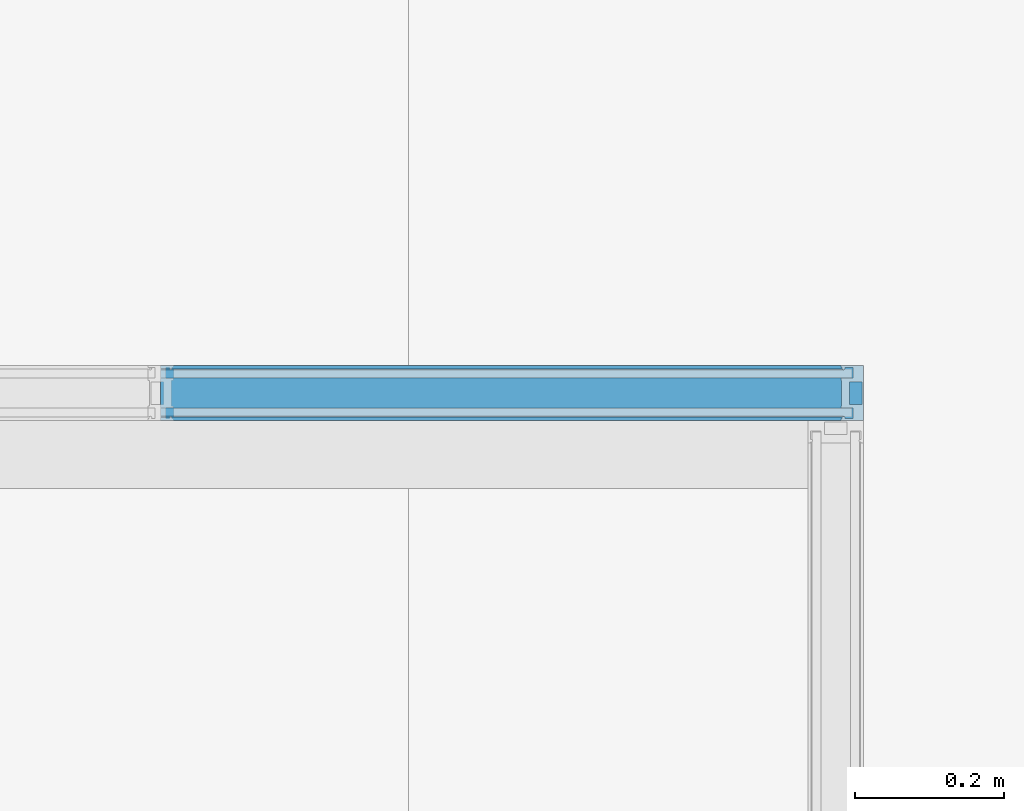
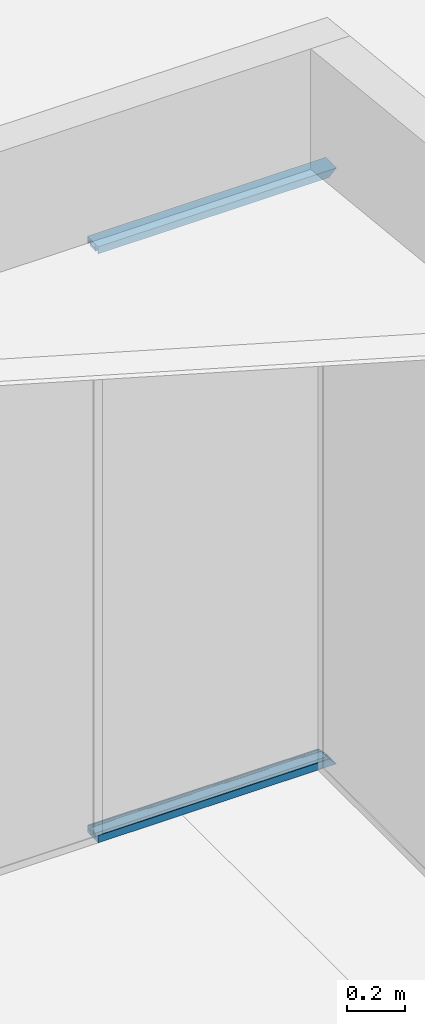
# One storey, part 21 of 43: 2 members, 1 element without a shape of its own.
"""IFC2X3 building model written with IfcOpenShell, lengths in millimetres."""

from ifc_helpers import new_model, entity, si_unit, converted_unit, derived_unit, money_unit, direction, frame, origin_with_axes, place, context, subcontext, project, spatial, faceted_brep, material, material_list, type_object, element, aggregate, save


model = new_model("IFC2X3")

# Units and contexts
model_context = context("Model", 3, precision=0.01, world=origin_with_axes(), true_north=direction((0.0, 1.0)))
body_context = subcontext(model_context, "Body", "Model", "MODEL_VIEW")
ifc_project = project(units=[si_unit("LENGTHUNIT", "METRE", prefix="MILLI"), si_unit("AREAUNIT", "SQUARE_METRE"), si_unit("VOLUMEUNIT", "CUBIC_METRE"), converted_unit("PLANEANGLEUNIT", "DEGREE", entity("IfcPlaneAngleMeasure", 0.0174532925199), si_unit("PLANEANGLEUNIT", "RADIAN"), dimensions=[0, 0, 0, 0, 0, 0, 0]), si_unit("SOLIDANGLEUNIT", "STERADIAN"), money_unit("EUR"), converted_unit("TIMEUNIT", "Year", entity("IfcTimeMeasure", 31556926.0), si_unit("TIMEUNIT", "SECOND"), dimensions=[0, 0, 1, 0, 0, 0, 0]), si_unit("MASSUNIT", "GRAM", prefix="KILO"), si_unit("THERMODYNAMICTEMPERATUREUNIT", "DEGREE_CELSIUS"), si_unit("LUMINOUSINTENSITYUNIT", "LUMEN"), si_unit("ENERGYUNIT", "JOULE", prefix="MEGA"), derived_unit("THERMALCONDUCTANCEUNIT", [(si_unit("POWERUNIT", "WATT"), 1), (si_unit("LENGTHUNIT", "METRE"), -1), (si_unit("THERMODYNAMICTEMPERATUREUNIT", "KELVIN"), -1)]), derived_unit("SPECIFICHEATCAPACITYUNIT", [(si_unit("ENERGYUNIT", "JOULE"), 1), (si_unit("MASSUNIT", "GRAM", prefix="KILO"), -1), (si_unit("THERMODYNAMICTEMPERATUREUNIT", "KELVIN"), -1)]), derived_unit("MASSDENSITYUNIT", [(si_unit("MASSUNIT", "GRAM", prefix="KILO"), 1), (si_unit("VOLUMEUNIT", "CUBIC_METRE"), -1)])], contexts=[model_context])

# Site, building, storey
site_placement = place(None, origin_with_axes())
site = spatial("IfcSite", under=ifc_project, at=site_placement, Name="L.Koidula tn 11b", CompositionType="ELEMENT")
building_placement = place(site_placement, origin_with_axes())
building = spatial("IfcBuilding", under=site, at=building_placement, Name="Rakvere Riigigümnaasium", CompositionType="ELEMENT")
storey_placement = place(building_placement, frame((0.0, 0.0, 6665.0), z_axis=(0.0, 0.0, 1.0), x_axis=(1.0, 0.0, 0.0)))
storey = spatial("IfcBuildingStorey", under=building, at=storey_placement, Name="3.korrus +6,66", CompositionType="ELEMENT", Elevation=6665.0)

# Curtain wall, members
curtain_wall_type = type_object("IfcCurtainWallType", Name="Curtain Wall Type", PredefinedType="NOTDEFINED")
curtain_wall_placement = place(storey_placement, frame((45254.9999955, 28178.4554945, 0.0), z_axis=(0.0, 0.0, 1.0), x_axis=(1.0, 0.0, 0.0)))
curtain_wall = element("IfcCurtainWall", 1, at=curtain_wall_placement, inside=storey, type_object=curtain_wall_type, Name="SKLF-26")
ifc_material_1 = material(Name="Klaasvill")
ifc_material_2 = material(Name="Teras RAL7012")
ifc_material_list = material_list([ifc_material_1, ifc_material_2])
member_type = type_object("IfcMemberType", Name="Boundary Frame 30 x 42", PredefinedType="MULLION")
member_1_placement = place(curtain_wall_placement, frame((2355.0, 0.0, 0.0), z_axis=(-1.0, 0.0, 0.0), x_axis=(0.0, 0.0, 1.0)))
member_1 = element("IfcMember", 2, at=member_1_placement, type_object=member_type, material=ifc_material_list, Name="SKLF-11-raam", ObjectType="MULLION", context=body_context, shape_type="Brep", body=[
    faceted_brep([(13.8499999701, 15.000000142, 13.8499999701), (13.8499999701, 15.000000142, 942.0), (7.49999990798, 15.000000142, 942.0), (7.49999990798, 15.000000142, 7.49999990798), (13.8499999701, 29.0161444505, 13.8499999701), (13.8499999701, 29.0161444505, 942.0), (7.49999990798, 29.0161444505, 942.0), (7.49999990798, 29.0161444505, 7.49999990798)], [[[0, 1, 2, 3]], [[4, 5, 1, 0]], [[2, 1, 5, 6]], [[3, 2, 6, 7]], [[3, 7, 4, 0]], [[7, 6, 5, 4]]]),
    faceted_brep([(25.004489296, 27.0307503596, 25.004489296), (25.004489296, 27.0307503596, 942.0), (24.987414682, 29.0161444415, 942.0), (24.987414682, 29.0161444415, 24.987414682), (25.742237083, 26.2930025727, 25.742237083), (25.742237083, 26.2930025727, 942.0), (26.7500193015, 26.0229681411, 942.0), (27.75780152, 26.2930025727, 942.0), (28.4955493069, 27.0307503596, 942.0), (28.7655837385, 28.0385325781, 942.0), (28.5126239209, 29.0161444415, 942.0), (28.5126239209, 29.0161444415, 28.5126239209), (28.7655837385, 28.0385325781, 28.7655837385), (28.4955493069, 27.0307503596, 28.4955493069), (27.75780152, 26.2930025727, 27.75780152), (26.7500193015, 26.0229681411, 26.7500193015)], [[[0, 1, 2, 3]], [[4, 5, 1, 0]], [[2, 1, 5, 6, 7, 8, 9, 10]], [[3, 2, 10, 11]], [[3, 11, 12, 13, 14, 15, 4, 0]], [[15, 6, 5, 4]], [[14, 7, 6, 15]], [[13, 8, 7, 14]], [[12, 9, 8, 13]], [[11, 10, 9, 12]]]),
    faceted_brep([(7.49999990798, -39.0161445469, 7.49999990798), (7.49999990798, -39.0161445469, 942.0), (7.49999990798, -24.9999997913, 942.0), (7.49999990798, -24.9999997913, 7.49999990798), (13.8499999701, -39.0161445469, 13.8499999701), (13.8499999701, -39.0161445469, 942.0), (13.8499999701, -24.9999997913, 942.0), (13.8499999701, -24.9999997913, 13.8499999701)], [[[0, 1, 2, 3]], [[4, 5, 1, 0]], [[2, 1, 5, 6]], [[3, 2, 6, 7]], [[3, 7, 4, 0]], [[7, 6, 5, 4]]]),
    faceted_brep([(24.987414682, -39.0161444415, 24.987414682), (24.987414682, -39.0161444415, 942.0), (25.004489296, -37.0307503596, 942.0), (25.004489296, -37.0307503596, 25.004489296), (28.5126239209, -39.0161444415, 28.5126239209), (28.5126239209, -39.0161444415, 942.0), (28.7655837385, -38.0385325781, 942.0), (28.4955493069, -37.0307503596, 942.0), (27.75780152, -36.2930025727, 942.0), (26.7500193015, -36.0229681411, 942.0), (25.742237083, -36.2930025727, 942.0), (25.742237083, -36.2930025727, 25.742237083), (26.7500193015, -36.0229681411, 26.7500193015), (27.75780152, -36.2930025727, 27.75780152), (28.4955493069, -37.0307503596, 28.4955493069), (28.7655837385, -38.0385325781, 28.7655837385)], [[[0, 1, 2, 3]], [[4, 5, 1, 0]], [[2, 1, 5, 6, 7, 8, 9, 10]], [[3, 2, 10, 11]], [[3, 11, 12, 13, 14, 15, 4, 0]], [[15, 6, 5, 4]], [[14, 7, 6, 15]], [[13, 8, 7, 14]], [[12, 9, 8, 13]], [[11, 10, 9, 12]]]),
    faceted_brep([(29.5999996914, -22.0000000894, 29.5999996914), (29.5999996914, -22.0000000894, 942.0), (0.0, -22.0000000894, 942.0), (0.0, -22.0000000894, 0.0), (29.5999996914, 12.0000000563, 29.5999996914), (29.5999996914, 12.0000000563, 942.0), (0.0, 12.0000000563, 942.0), (1.9999999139, 10.0000001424, 942.0), (18.7999996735, 10.0000001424, 942.0), (18.7999996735, -20.0000001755, 942.0), (1.9999999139, -20.0000001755, 942.0), (0.0, 12.0000000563, 0.0), (1.9999999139, 10.0000001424, 1.9999999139), (1.9999999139, -20.0000001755, 1.9999999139), (18.7999996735, -20.0000001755, 18.7999996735), (18.7999996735, 10.0000001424, 18.7999996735)], [[[0, 1, 2, 3]], [[4, 5, 1, 0]], [[2, 1, 5, 6], [7, 8, 9, 10]], [[3, 2, 6, 11]], [[3, 11, 4, 0], [12, 13, 14, 15]], [[11, 6, 5, 4]], [[15, 8, 7, 12]], [[14, 9, 8, 15]], [[13, 10, 9, 14]], [[12, 7, 10, 13]]]),
    faceted_brep([(29.5999996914, 12.0000000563, 29.5999996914), (29.5999996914, 12.0000000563, 942.0), (0.0, 12.0, 942.0), (0.0, 12.0, 0.0), (30.0000193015, 12.0, 30.0000193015), (30.0000193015, 12.0, 942.0), (30.0000193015, 15.0, 942.0), (13.8499999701, 15.000000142, 942.0), (7.49999999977, 15.0, 942.0), (7.49999999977, 29.0161444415, 942.0), (13.8499999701, 29.0161444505, 942.0), (24.987414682, 29.0161444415, 942.0), (28.5126239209, 29.0161444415, 942.0), (30.0000193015, 29.0161444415, 942.0), (30.0000193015, 32.0, 942.0), (0.0, 32.0, 942.0), (0.0, 32.0, 0.0), (30.0000193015, 32.0, 30.0000193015), (30.0000193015, 29.0161444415, 30.0000193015), (28.5126239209, 29.0161444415, 28.5126239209), (24.987414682, 29.0161444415, 24.987414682), (13.8499999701, 29.0161444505, 13.8499999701), (7.49999999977, 29.0161444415, 7.49999999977), (7.49999999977, 15.0, 7.49999999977), (13.8499999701, 15.000000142, 13.8499999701), (30.0000193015, 15.0, 30.0000193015)], [[[0, 1, 2, 3]], [[4, 5, 1, 0]], [[2, 1, 5, 6, 7, 8, 9, 10, 11, 12, 13, 14, 15]], [[3, 2, 15, 16]], [[3, 16, 17, 18, 19, 20, 21, 22, 23, 24, 25, 4, 0]], [[25, 6, 5, 4]], [[24, 7, 6, 25]], [[23, 8, 7, 24]], [[22, 9, 8, 23]], [[21, 10, 9, 22]], [[20, 11, 10, 21]], [[19, 12, 11, 20]], [[18, 13, 12, 19]], [[17, 14, 13, 18]], [[16, 15, 14, 17]]]),
    faceted_brep([(0.0, -42.0, 0.0), (0.0, -42.0, 942.0), (0.0, -22.0, 942.0), (0.0, -22.0, 0.0), (30.0000193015, -42.0, 30.0000193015), (30.0000193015, -42.0, 942.0), (30.0000193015, -39.0161444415, 942.0), (28.5126239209, -39.0161444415, 942.0), (24.987414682, -39.0161444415, 942.0), (13.8499999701, -39.0161445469, 942.0), (7.49999999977, -39.0161444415, 942.0), (7.49999999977, -25.0, 942.0), (13.8499999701, -24.9999997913, 942.0), (30.0000193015, -25.0, 942.0), (30.0000193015, -22.0, 942.0), (29.5999996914, -22.0000000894, 942.0), (29.5999996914, -22.0000000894, 29.5999996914), (30.0000193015, -22.0, 30.0000193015), (30.0000193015, -25.0, 30.0000193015), (13.8499999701, -24.9999997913, 13.8499999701), (7.49999999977, -25.0, 7.49999999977), (7.49999999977, -39.0161444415, 7.49999999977), (13.8499999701, -39.0161445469, 13.8499999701), (24.987414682, -39.0161444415, 24.987414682), (28.5126239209, -39.0161444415, 28.5126239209), (30.0000193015, -39.0161444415, 30.0000193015)], [[[0, 1, 2, 3]], [[4, 5, 1, 0]], [[2, 1, 5, 6, 7, 8, 9, 10, 11, 12, 13, 14, 15]], [[3, 2, 15, 16]], [[3, 16, 17, 18, 19, 20, 21, 22, 23, 24, 25, 4, 0]], [[25, 6, 5, 4]], [[24, 7, 6, 25]], [[23, 8, 7, 24]], [[22, 9, 8, 23]], [[21, 10, 9, 22]], [[20, 11, 10, 21]], [[19, 12, 11, 20]], [[18, 13, 12, 19]], [[17, 14, 13, 18]], [[16, 15, 14, 17]]]),
])
member_2_placement = place(curtain_wall_placement, frame((1413.0, 0.0, 2489.99984217), z_axis=(1.0, 0.0, 0.0), x_axis=(0.0, 0.0, -1.0)))
member_2 = element("IfcMember", 3, at=member_2_placement, type_object=member_type, material=ifc_material_list, Name="SKLF-35-raam", ObjectType="MULLION", context=body_context, shape_type="Brep", body=[
    faceted_brep([(7.49999990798, 15.000000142, 0.0), (13.8499999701, 15.000000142, 0.0), (13.8499999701, 15.000000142, 928.15000003), (7.49999990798, 15.000000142, 934.500000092), (7.49999990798, 29.0161444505, 0.0), (13.8499999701, 29.0161444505, 0.0), (13.8499999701, 29.0161444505, 928.15000003), (7.49999990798, 29.0161444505, 934.500000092)], [[[0, 1, 2, 3]], [[0, 4, 5, 1]], [[1, 5, 6, 2]], [[3, 2, 6, 7]], [[4, 0, 3, 7]], [[5, 4, 7, 6]]]),
    faceted_brep([(24.987414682, 29.0161444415, 0.0), (25.004489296, 27.0307503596, 0.0), (25.004489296, 27.0307503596, 916.995510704), (24.987414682, 29.0161444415, 917.012585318), (28.5126239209, 29.0161444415, 0.0), (28.7655837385, 28.0385325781, 0.0), (28.4955493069, 27.0307503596, 0.0), (27.75780152, 26.2930025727, 0.0), (26.7500193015, 26.0229681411, 0.0), (25.742237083, 26.2930025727, 0.0), (25.742237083, 26.2930025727, 916.257762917), (26.7500193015, 26.0229681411, 915.249980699), (27.75780152, 26.2930025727, 914.24219848), (28.4955493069, 27.0307503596, 913.504450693), (28.7655837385, 28.0385325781, 913.234416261), (28.5126239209, 29.0161444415, 913.487376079)], [[[0, 1, 2, 3]], [[0, 4, 5, 6, 7, 8, 9, 1]], [[1, 9, 10, 2]], [[3, 2, 10, 11, 12, 13, 14, 15]], [[4, 0, 3, 15]], [[5, 4, 15, 14]], [[6, 5, 14, 13]], [[7, 6, 13, 12]], [[8, 7, 12, 11]], [[9, 8, 11, 10]]]),
    faceted_brep([(7.49999990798, -24.9999997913, 0.0), (7.49999990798, -39.0161445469, 0.0), (7.49999990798, -39.0161445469, 934.500000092), (7.49999990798, -24.9999997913, 934.500000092), (13.8499999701, -24.9999997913, 0.0), (13.8499999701, -39.0161445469, 0.0), (13.8499999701, -39.0161445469, 928.15000003), (13.8499999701, -24.9999997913, 928.15000003)], [[[0, 1, 2, 3]], [[0, 4, 5, 1]], [[1, 5, 6, 2]], [[3, 2, 6, 7]], [[4, 0, 3, 7]], [[5, 4, 7, 6]]]),
    faceted_brep([(25.004489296, -37.0307503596, 0.0), (24.987414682, -39.0161444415, 0.0), (24.987414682, -39.0161444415, 917.012585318), (25.004489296, -37.0307503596, 916.995510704), (25.742237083, -36.2930025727, 0.0), (26.7500193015, -36.0229681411, 0.0), (27.75780152, -36.2930025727, 0.0), (28.4955493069, -37.0307503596, 0.0), (28.7655837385, -38.0385325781, 0.0), (28.5126239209, -39.0161444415, 0.0), (28.5126239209, -39.0161444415, 913.487376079), (28.7655837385, -38.0385325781, 913.234416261), (28.4955493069, -37.0307503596, 913.504450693), (27.75780152, -36.2930025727, 914.24219848), (26.7500193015, -36.0229681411, 915.249980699), (25.742237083, -36.2930025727, 916.257762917)], [[[0, 1, 2, 3]], [[0, 4, 5, 6, 7, 8, 9, 1]], [[1, 9, 10, 2]], [[3, 2, 10, 11, 12, 13, 14, 15]], [[4, 0, 3, 15]], [[5, 4, 15, 14]], [[6, 5, 14, 13]], [[7, 6, 13, 12]], [[8, 7, 12, 11]], [[9, 8, 11, 10]]]),
    faceted_brep([(0.0, -22.0000000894, 0.0), (29.5999996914, -22.0000000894, 0.0), (29.5999996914, -22.0000000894, 912.400000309), (0.0, -22.0000000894, 942.0), (0.0, 12.0000000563, 0.0), (29.5999996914, 12.0000000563, 0.0), (1.9999999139, 10.0000001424, 0.0), (1.9999999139, -20.0000001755, 0.0), (18.7999996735, -20.0000001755, 0.0), (18.7999996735, 10.0000001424, 0.0), (29.5999996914, 12.0000000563, 912.400000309), (0.0, 12.0000000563, 942.0), (1.9999999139, 10.0000001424, 940.000000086), (18.7999996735, 10.0000001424, 923.200000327), (18.7999996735, -20.0000001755, 923.200000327), (1.9999999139, -20.0000001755, 940.000000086)], [[[0, 1, 2, 3]], [[0, 4, 5, 1], [6, 7, 8, 9]], [[1, 5, 10, 2]], [[3, 2, 10, 11], [12, 13, 14, 15]], [[4, 0, 3, 11]], [[5, 4, 11, 10]], [[7, 6, 12, 15]], [[8, 7, 15, 14]], [[9, 8, 14, 13]], [[6, 9, 13, 12]]]),
    faceted_brep([(0.0, 12.0, 0.0), (29.5999996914, 12.0000000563, 0.0), (29.5999996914, 12.0000000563, 912.400000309), (0.0, 12.0, 942.0), (0.0, 32.0, 0.0), (30.0000193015, 32.0, 0.0), (30.0000193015, 29.0161444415, 0.0), (28.5126239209, 29.0161444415, 0.0), (24.987414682, 29.0161444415, 0.0), (13.8499999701, 29.0161444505, 0.0), (7.49999999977, 29.0161444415, 0.0), (7.49999999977, 15.0, 0.0), (13.8499999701, 15.000000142, 0.0), (30.0000193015, 15.0, 0.0), (30.0000193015, 12.0, 0.0), (30.0000193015, 12.0, 911.999980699), (30.0000193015, 15.0, 911.999980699), (13.8499999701, 15.000000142, 928.15000003), (7.49999999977, 15.0, 934.5), (7.49999999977, 29.0161444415, 934.5), (13.8499999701, 29.0161444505, 928.15000003), (24.987414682, 29.0161444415, 917.012585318), (28.5126239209, 29.0161444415, 913.487376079), (30.0000193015, 29.0161444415, 911.999980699), (30.0000193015, 32.0, 911.999980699), (0.0, 32.0, 942.0)], [[[0, 1, 2, 3]], [[0, 4, 5, 6, 7, 8, 9, 10, 11, 12, 13, 14, 1]], [[1, 14, 15, 2]], [[3, 2, 15, 16, 17, 18, 19, 20, 21, 22, 23, 24, 25]], [[4, 0, 3, 25]], [[5, 4, 25, 24]], [[6, 5, 24, 23]], [[7, 6, 23, 22]], [[8, 7, 22, 21]], [[9, 8, 21, 20]], [[10, 9, 20, 19]], [[11, 10, 19, 18]], [[12, 11, 18, 17]], [[13, 12, 17, 16]], [[14, 13, 16, 15]]]),
    faceted_brep([(0.0, -22.0, 0.0), (0.0, -42.0, 0.0), (0.0, -42.0, 942.0), (0.0, -22.0, 942.0), (29.5999996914, -22.0000000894, 0.0), (30.0000193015, -22.0, 0.0), (30.0000193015, -25.0, 0.0), (13.8499999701, -24.9999997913, 0.0), (7.49999999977, -25.0, 0.0), (7.49999999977, -39.0161444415, 0.0), (13.8499999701, -39.0161445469, 0.0), (24.987414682, -39.0161444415, 0.0), (28.5126239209, -39.0161444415, 0.0), (30.0000193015, -39.0161444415, 0.0), (30.0000193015, -42.0, 0.0), (30.0000193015, -42.0, 911.999980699), (30.0000193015, -39.0161444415, 911.999980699), (28.5126239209, -39.0161444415, 913.487376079), (24.987414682, -39.0161444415, 917.012585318), (13.8499999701, -39.0161445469, 928.15000003), (7.49999999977, -39.0161444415, 934.5), (7.49999999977, -25.0, 934.5), (13.8499999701, -24.9999997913, 928.15000003), (30.0000193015, -25.0, 911.999980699), (30.0000193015, -22.0, 911.999980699), (29.5999996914, -22.0000000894, 912.400000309)], [[[0, 1, 2, 3]], [[0, 4, 5, 6, 7, 8, 9, 10, 11, 12, 13, 14, 1]], [[1, 14, 15, 2]], [[3, 2, 15, 16, 17, 18, 19, 20, 21, 22, 23, 24, 25]], [[4, 0, 3, 25]], [[5, 4, 25, 24]], [[6, 5, 24, 23]], [[7, 6, 23, 22]], [[8, 7, 22, 21]], [[9, 8, 21, 20]], [[10, 9, 20, 19]], [[11, 10, 19, 18]], [[12, 11, 18, 17]], [[13, 12, 17, 16]], [[14, 13, 16, 15]]]),
])
aggregate(curtain_wall, [member_1, member_2])

save(model, "model.ifc")
